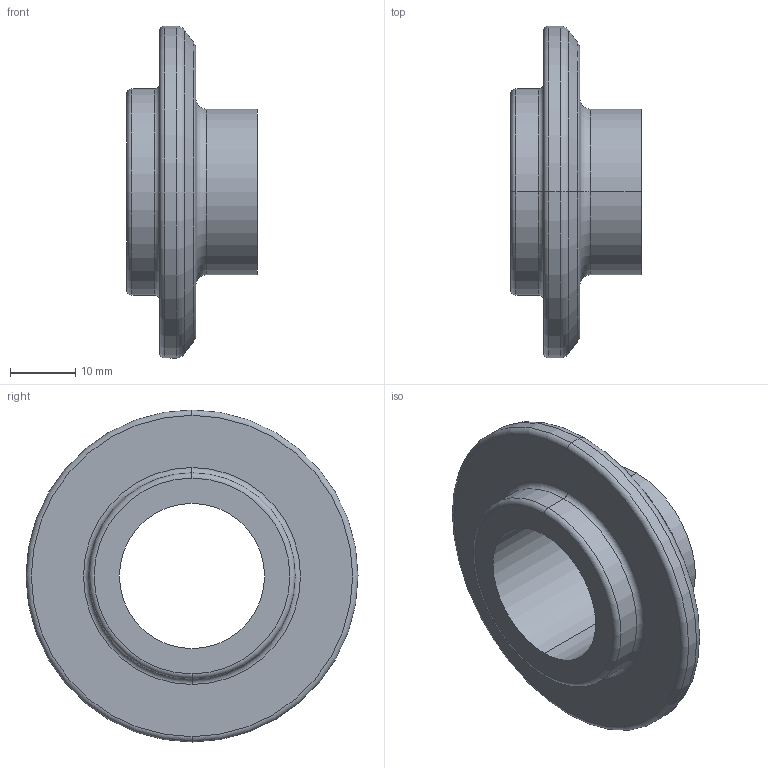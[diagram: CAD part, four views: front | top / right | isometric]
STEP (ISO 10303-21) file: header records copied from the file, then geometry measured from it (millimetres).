
FILE_DESCRIPTION (( 'STEP AP214' ), '1' );
FILE_NAME ('E14WI 1.0 REV1.STEP', '2025-07-07T15:15:10', ( '' ), ( '' ), 'SwSTEP 2.0', 'SolidWorks 2022', '' );
FILE_SCHEMA (( 'AUTOMOTIVE_DESIGN' ));
Length unit declared in the file: inch
Products named in the file (1): E14WI 1.0 REV1
Bounding box: 19.99 x 50.8 x 50.8 mm (x, y, z)
Volume: 11714.6 mm3; surface area: 6362.7 mm2
Topology: 1 solids, 1 shells, 26 faces, 52 edges, 30 vertices
Faces by surface type: torus 12, cylinder 8, plane 4, cone 2
Entity records: 730 total; most frequent: DIRECTION 148, CARTESIAN_POINT 109, ORIENTED_EDGE 104, AXIS2_PLACEMENT_3D 69, EDGE_CURVE 52, CIRCLE 42, VERTEX_POINT 30, EDGE_LOOP 30
